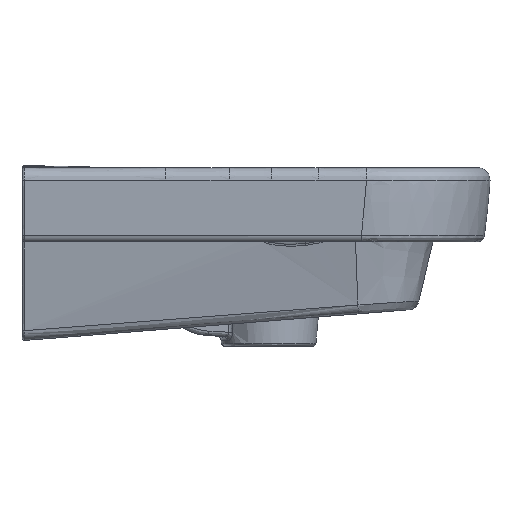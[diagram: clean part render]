
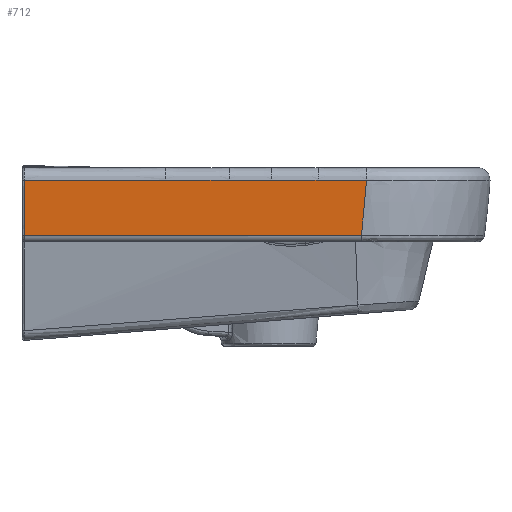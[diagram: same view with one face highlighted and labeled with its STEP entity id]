
A CAD part, left-side view. The second image highlights one B-rep face of the part: STEP entity #712.
In plain terms, the highlighted free-form (B-spline) face has degree [1, 3] with [2, 5] control points.
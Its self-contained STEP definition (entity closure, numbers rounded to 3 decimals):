
#149=B_SPLINE_SURFACE_WITH_KNOTS('',1,3,((#20116,#20117,#20118,#20119,#20120),
(#20121,#20122,#20123,#20124,#20125)),.UNSPECIFIED.,.F.,.F.,.F.,(2,2),(4,
1,4),(0.,1.),(0.,0.744,1.),.UNSPECIFIED.);
#712=ADVANCED_FACE('',(#1064),#149,.T.);
#1064=FACE_OUTER_BOUND('',#1391,.T.);
#1391=EDGE_LOOP('',(#3177,#3178,#3179,#3180,#3181,#3182,#3183,#3184,#3185));
#1893=B_SPLINE_CURVE_WITH_KNOTS('',3,(#18253,#18254,#18255,#18256,#18257,
#18258,#18259,#18260),.UNSPECIFIED.,.F.,.F.,(4,2,2,4),(0.,0.62,
0.796,1.),.UNSPECIFIED.);
#1895=B_SPLINE_CURVE_WITH_KNOTS('',1,(#18296,#18297),.UNSPECIFIED.,.F.,
 .F.,(2,2),(0.,1.),.UNSPECIFIED.);
#1898=B_SPLINE_CURVE_WITH_KNOTS('',3,(#18336,#18337,#18338,#18339),
 .UNSPECIFIED.,.F.,.F.,(4,4),(0.,1.),.UNSPECIFIED.);
#1899=B_SPLINE_CURVE_WITH_KNOTS('',3,(#18352,#18353,#18354,#18355,#18356,
#18357,#18358,#18359),.UNSPECIFIED.,.F.,.F.,(4,2,2,4),(0.,0.279,
0.558,1.),.UNSPECIFIED.);
#1937=B_SPLINE_CURVE_WITH_KNOTS('',3,(#20078,#20079,#20080,#20081,#20082,
#20083,#20084,#20085),.UNSPECIFIED.,.F.,.F.,(4,2,2,4),(0.,0.34,
0.681,1.),.UNSPECIFIED.);
#1938=B_SPLINE_CURVE_WITH_KNOTS('',3,(#20098,#20099,#20100,#20101),
 .UNSPECIFIED.,.F.,.F.,(4,4),(0.,1.),.UNSPECIFIED.);
#1939=B_SPLINE_CURVE_WITH_KNOTS('',3,(#20102,#20103,#20104,#20105),
 .UNSPECIFIED.,.F.,.F.,(4,4),(0.,1.),.UNSPECIFIED.);
#1940=B_SPLINE_CURVE_WITH_KNOTS('',3,(#20107,#20108,#20109,#20110),
 .UNSPECIFIED.,.F.,.F.,(4,4),(0.,1.),.UNSPECIFIED.);
#1941=B_SPLINE_CURVE_WITH_KNOTS('',3,(#20112,#20113,#20114,#20115),
 .UNSPECIFIED.,.F.,.F.,(4,4),(0.,1.),.UNSPECIFIED.);
#3177=ORIENTED_EDGE('',*,*,#4876,.T.);
#3178=ORIENTED_EDGE('',*,*,#4944,.T.);
#3179=ORIENTED_EDGE('',*,*,#4878,.T.);
#3180=ORIENTED_EDGE('',*,*,#4945,.T.);
#3181=ORIENTED_EDGE('',*,*,#4946,.T.);
#3182=ORIENTED_EDGE('',*,*,#4947,.T.);
#3183=ORIENTED_EDGE('',*,*,#4943,.T.);
#3184=ORIENTED_EDGE('',*,*,#4884,.T.);
#3185=ORIENTED_EDGE('',*,*,#4885,.T.);
#4182=VERTEX_POINT('',#18252);
#4183=VERTEX_POINT('',#18261);
#4184=VERTEX_POINT('',#18298);
#4185=VERTEX_POINT('',#18299);
#4186=VERTEX_POINT('',#18311);
#4188=VERTEX_POINT('',#18335);
#4228=VERTEX_POINT('',#20068);
#4230=VERTEX_POINT('',#20106);
#4231=VERTEX_POINT('',#20111);
#4876=EDGE_CURVE('',#4183,#4182,#1893,.T.);
#4878=EDGE_CURVE('',#4184,#4185,#1895,.T.);
#4884=EDGE_CURVE('',#4186,#4188,#1898,.T.);
#4885=EDGE_CURVE('',#4188,#4183,#1899,.T.);
#4943=EDGE_CURVE('',#4228,#4186,#1937,.T.);
#4944=EDGE_CURVE('',#4182,#4184,#1938,.T.);
#4945=EDGE_CURVE('',#4185,#4230,#1939,.T.);
#4946=EDGE_CURVE('',#4230,#4231,#1940,.T.);
#4947=EDGE_CURVE('',#4231,#4228,#1941,.T.);
#18252=CARTESIAN_POINT('',(-275.004,-2.,-9.865));
#18253=CARTESIAN_POINT('',(-275.001,-116.361,-10.053));
#18254=CARTESIAN_POINT('',(-275.002,-92.741,-10.04));
#18255=CARTESIAN_POINT('',(-275.002,-69.121,-10.046));
#18256=CARTESIAN_POINT('',(-275.002,-38.773,-10.041));
#18257=CARTESIAN_POINT('',(-275.002,-32.046,-10.027));
#18258=CARTESIAN_POINT('',(-275.003,-17.545,-9.965));
#18259=CARTESIAN_POINT('',(-275.003,-9.773,-9.918));
#18260=CARTESIAN_POINT('',(-275.004,-2.,-9.865));
#18261=CARTESIAN_POINT('',(-275.001,-116.361,-10.054));
#18296=CARTESIAN_POINT('',(-272.733,-2.,-54.523));
#18297=CARTESIAN_POINT('',(-272.733,-275.219,-54.523));
#18298=CARTESIAN_POINT('',(-272.733,-2.,-54.523));
#18299=CARTESIAN_POINT('',(-272.733,-275.219,-54.523));
#18311=CARTESIAN_POINT('',(-275.002,-202.138,-10.025));
#18335=CARTESIAN_POINT('',(-275.002,-167.975,-10.042));
#18336=CARTESIAN_POINT('',(-275.002,-202.138,-10.025));
#18337=CARTESIAN_POINT('',(-275.002,-190.75,-10.024));
#18338=CARTESIAN_POINT('',(-275.002,-179.363,-10.029));
#18339=CARTESIAN_POINT('',(-275.002,-167.975,-10.042));
#18352=CARTESIAN_POINT('',(-275.002,-167.975,-10.042));
#18353=CARTESIAN_POINT('',(-275.001,-163.172,-10.048));
#18354=CARTESIAN_POINT('',(-275.001,-158.369,-10.052));
#18355=CARTESIAN_POINT('',(-275.001,-148.764,-10.058));
#18356=CARTESIAN_POINT('',(-275.001,-143.961,-10.06));
#18357=CARTESIAN_POINT('',(-275.001,-131.559,-10.062));
#18358=CARTESIAN_POINT('',(-275.001,-123.96,-10.06));
#18359=CARTESIAN_POINT('',(-275.001,-116.361,-10.056));
#20068=CARTESIAN_POINT('',(-275.002,-240.,-10.026));
#20078=CARTESIAN_POINT('',(-275.002,-240.,-10.026));
#20079=CARTESIAN_POINT('',(-275.002,-235.704,-10.026));
#20080=CARTESIAN_POINT('',(-275.002,-231.407,-10.026));
#20081=CARTESIAN_POINT('',(-275.002,-222.815,-10.026));
#20082=CARTESIAN_POINT('',(-275.002,-218.518,-10.026));
#20083=CARTESIAN_POINT('',(-275.002,-210.194,-10.025));
#20084=CARTESIAN_POINT('',(-275.002,-206.166,-10.025));
#20085=CARTESIAN_POINT('',(-275.002,-202.138,-10.025));
#20098=CARTESIAN_POINT('',(-275.004,-2.,-9.865));
#20099=CARTESIAN_POINT('',(-274.79,-2.,-24.772));
#20100=CARTESIAN_POINT('',(-274.032,-2.,-39.671));
#20101=CARTESIAN_POINT('',(-272.733,-2.,-54.523));
#20102=CARTESIAN_POINT('',(-272.733,-275.219,-54.523));
#20103=CARTESIAN_POINT('',(-274.023,-277.033,-39.779));
#20104=CARTESIAN_POINT('',(-274.78,-278.395,-24.974));
#20105=CARTESIAN_POINT('',(-275.,-279.306,-10.148));
#20106=CARTESIAN_POINT('',(-275.,-279.309,-10.148));
#20107=CARTESIAN_POINT('',(-275.,-279.306,-10.148));
#20108=CARTESIAN_POINT('',(-275.001,-279.308,-10.107));
#20109=CARTESIAN_POINT('',(-275.001,-279.311,-10.067));
#20110=CARTESIAN_POINT('',(-275.002,-279.313,-10.026));
#20111=CARTESIAN_POINT('',(-275.002,-279.314,-10.026));
#20112=CARTESIAN_POINT('',(-275.002,-279.313,-10.026));
#20113=CARTESIAN_POINT('',(-275.002,-266.209,-10.027));
#20114=CARTESIAN_POINT('',(-275.002,-253.104,-10.026));
#20115=CARTESIAN_POINT('',(-275.002,-240.,-10.026));
#20116=CARTESIAN_POINT('',(-272.229,0.,-60.));
#20117=CARTESIAN_POINT('',(-274.154,0.,-40.062));
#20118=CARTESIAN_POINT('',(-275.427,0.,-13.137));
#20119=CARTESIAN_POINT('',(-274.927,0.,13.785));
#20120=CARTESIAN_POINT('',(-274.722,0.,20.677));
#20121=CARTESIAN_POINT('',(-272.229,-281.618,-60.));
#20122=CARTESIAN_POINT('',(-274.154,-281.618,-40.062));
#20123=CARTESIAN_POINT('',(-275.427,-281.618,-13.137));
#20124=CARTESIAN_POINT('',(-274.927,-281.618,13.785));
#20125=CARTESIAN_POINT('',(-274.722,-281.618,20.677));
